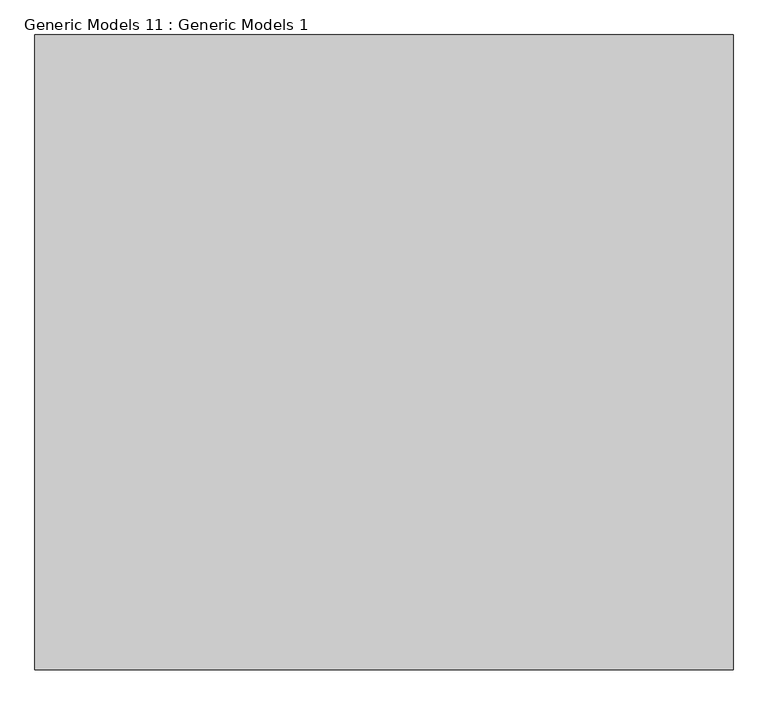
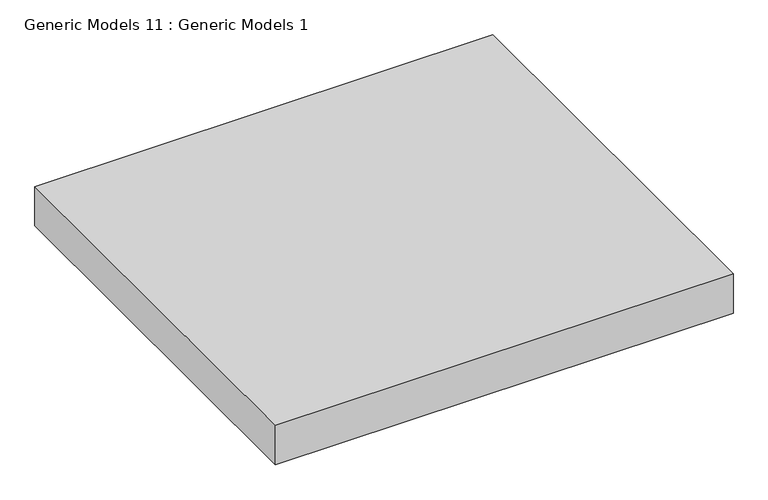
"""IFC4 building model written with IfcOpenShell, lengths in millimetres: proxy geometry, Generic Models 11 : Generic Models 1."""

from ifc_helpers import new_model, si_unit, origin, origin_with_axes, place, context, project, spatial, polyline, outline, extrude, source, transform, mapped, element, save


def generic_models_11_generic_models_1_9f7aef5a(model_context):
    return source(origin(), model_context, "Body", "SweptSolid", [
        extrude(outline(polyline([(-16962.8148829, -1826.5772826), (-16962.8148829, -826.5772826), (-15862.8148829, -826.5772826), (-15862.8148829, -1826.5772826), (-16962.8148829, -1826.5772826)])), origin_with_axes(), (0.0, 0.0, 1.0), 100.0),
    ])


if __name__ == "__main__":
    model = new_model("IFC4")
    model_context = context("Model", 3, world=origin())
    ifc_project = project(units=[si_unit("LENGTHUNIT", "METRE", prefix="MILLI")], contexts=[model_context])
    site = spatial("IfcSite", under=ifc_project)
    building = spatial("IfcBuilding", under=site)
    placement = place(None, origin())
    generic_models_11_generic_models_1_shape = generic_models_11_generic_models_1_9f7aef5a(model_context)
    element("IfcBuildingElementProxy", 1, Name="Generic Models 11 : Generic Models 1", ObjectType="Generic Models 11 : Generic Models 1", at=placement, inside=building, context=model_context, shape_type="MappedRepresentation", body=[
        mapped(generic_models_11_generic_models_1_shape, transform((0.0, 0.0, 0.0), x_axis=(1.0, 0.0, 0.0), y_axis=(0.0, 1.0, 0.0), z_axis=(0.0, 0.0, 1.0))),
    ])
    save(model, "model.ifc")
